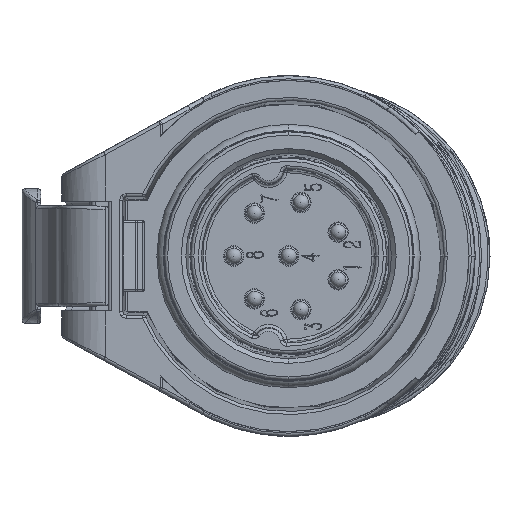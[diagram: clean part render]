
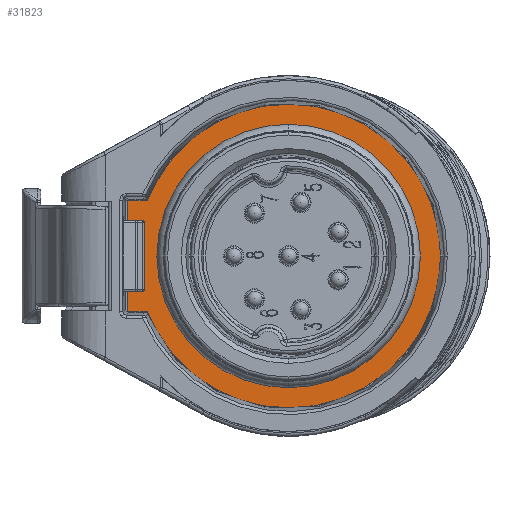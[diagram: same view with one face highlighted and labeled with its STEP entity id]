
A CAD part, left-side view. The second image highlights one B-rep face of the part: STEP entity #31823.
In plain terms, the highlighted planar face has unit normal (-1, 0, 0) as drawn and (0, 1, 0) by its records, which use the part's own axes.
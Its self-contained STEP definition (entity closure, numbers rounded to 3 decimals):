
#587 = EDGE_CURVE ( 'NONE', #84613, #59885, #59883, .T. ) ;
#3936 = DIRECTION ( 'NONE',  ( 0., 0., 1. ) ) ;
#3945 = VERTEX_POINT ( 'NONE', #59666 ) ;
#4397 = ORIENTED_EDGE ( 'NONE', *, *, #35210, .T. ) ;
#4482 = EDGE_LOOP ( 'NONE', ( #96091, #53062, #32875, #41013, #77374, #11120 ) ) ;
#6550 = DIRECTION ( 'NONE',  ( 0., 1., 0. ) ) ;
#8684 = CARTESIAN_POINT ( 'NONE',  ( 10.299, 2., 3.523 ) ) ;
#9753 = VECTOR ( 'NONE', #71012, 1000. ) ;
#9913 = VERTEX_POINT ( 'NONE', #98156 ) ;
#10788 = CIRCLE ( 'NONE', #98382, 9.683 ) ;
#11120 = ORIENTED_EDGE ( 'NONE', *, *, #587, .F. ) ;
#15989 = VECTOR ( 'NONE', #44357, 1000. ) ;
#18918 = VECTOR ( 'NONE', #60556, 1000. ) ;
#19224 = CARTESIAN_POINT ( 'NONE',  ( 10.299, 2., -3.523 ) ) ;
#19302 = ORIENTED_EDGE ( 'NONE', *, *, #79206, .T. ) ;
#20868 = CARTESIAN_POINT ( 'NONE',  ( 0., 2., -9.683 ) ) ;
#20879 = AXIS2_PLACEMENT_3D ( 'NONE', #41137, #6550, #67107 ) ;
#21631 = LINE ( 'NONE', #8684, #18918 ) ;
#23033 = CARTESIAN_POINT ( 'NONE',  ( 0., 2., 0. ) ) ;
#23226 = FACE_BOUND ( 'NONE', #71206, .T. ) ;
#30819 = DIRECTION ( 'NONE',  ( 0., -1., 0. ) ) ;
#31823 = ADVANCED_FACE ( 'NONE', ( #89326, #23226 ), #58432, .T. ) ;
#31858 = DIRECTION ( 'NONE',  ( 0., 0., 1. ) ) ;
#32875 = ORIENTED_EDGE ( 'NONE', *, *, #43803, .F. ) ;
#35210 = EDGE_CURVE ( 'NONE', #41559, #3945, #109313, .T. ) ;
#35602 = LINE ( 'NONE', #19224, #9753 ) ;
#39324 = DIRECTION ( 'NONE',  ( 0., -1., 0. ) ) ;
#40110 = CARTESIAN_POINT ( 'NONE',  ( 10.274, 2., -3.524 ) ) ;
#41013 = ORIENTED_EDGE ( 'NONE', *, *, #80563, .F. ) ;
#41137 = CARTESIAN_POINT ( 'NONE',  ( 0., 2., 0. ) ) ;
#41559 = VERTEX_POINT ( 'NONE', #81406 ) ;
#43803 = EDGE_CURVE ( 'NONE', #66193, #58350, #99607, .T. ) ;
#44357 = DIRECTION ( 'NONE',  ( 0., 0., 1. ) ) ;
#47418 = CARTESIAN_POINT ( 'NONE',  ( 9.01, 2., -3.545 ) ) ;
#53062 = ORIENTED_EDGE ( 'NONE', *, *, #84143, .F. ) ;
#55834 = DIRECTION ( 'NONE',  ( 0., -1., 0. ) ) ;
#58350 = VERTEX_POINT ( 'NONE', #93183 ) ;
#58432 = PLANE ( 'NONE',  #20879 ) ;
#59666 = CARTESIAN_POINT ( 'NONE',  ( 0., 2., 7.983 ) ) ;
#59883 = CIRCLE ( 'NONE', #96144, 9.683 ) ;
#59885 = VERTEX_POINT ( 'NONE', #20868 ) ;
#60556 = DIRECTION ( 'NONE',  ( -1., 0., 0.017 ) ) ;
#60932 = CARTESIAN_POINT ( 'NONE',  ( 10.274, 2., 3.55 ) ) ;
#61329 = CIRCLE ( 'NONE', #98259, 7.983 ) ;
#66193 = VERTEX_POINT ( 'NONE', #40110 ) ;
#66275 = CARTESIAN_POINT ( 'NONE',  ( 0., 2., 0. ) ) ;
#67020 = DIRECTION ( 'NONE',  ( 0., 0., 1. ) ) ;
#67107 = DIRECTION ( 'NONE',  ( 0., 0., 1. ) ) ;
#67865 = AXIS2_PLACEMENT_3D ( 'NONE', #90845, #39324, #99468 ) ;
#68116 = DIRECTION ( 'NONE',  ( 0., -1., 0. ) ) ;
#68749 = EDGE_CURVE ( 'NONE', #9913, #84613, #10788, .T. ) ;
#71012 = DIRECTION ( 'NONE',  ( 1., 0., 0.017 ) ) ;
#71206 = EDGE_LOOP ( 'NONE', ( #19302, #4397 ) ) ;
#74200 = EDGE_CURVE ( 'NONE', #59885, #78611, #98094, .T. ) ;
#74821 = CARTESIAN_POINT ( 'NONE',  ( 0., 2., 9.683 ) ) ;
#77374 = ORIENTED_EDGE ( 'NONE', *, *, #74200, .F. ) ;
#78611 = VERTEX_POINT ( 'NONE', #47418 ) ;
#79206 = EDGE_CURVE ( 'NONE', #3945, #41559, #61329, .T. ) ;
#80563 = EDGE_CURVE ( 'NONE', #78611, #66193, #35602, .T. ) ;
#81406 = CARTESIAN_POINT ( 'NONE',  ( 0., 2., -7.983 ) ) ;
#82357 = CARTESIAN_POINT ( 'NONE',  ( 0., 2., 0. ) ) ;
#83369 = DIRECTION ( 'NONE',  ( 0., -1., 0. ) ) ;
#84143 = EDGE_CURVE ( 'NONE', #58350, #9913, #21631, .T. ) ;
#84613 = VERTEX_POINT ( 'NONE', #74821 ) ;
#89326 = FACE_OUTER_BOUND ( 'NONE', #4482, .T. ) ;
#90845 = CARTESIAN_POINT ( 'NONE',  ( 0., 2., 0. ) ) ;
#91045 = DIRECTION ( 'NONE',  ( 0., 0., 1. ) ) ;
#93183 = CARTESIAN_POINT ( 'NONE',  ( 10.274, 2., 3.524 ) ) ;
#94039 = AXIS2_PLACEMENT_3D ( 'NONE', #107304, #55834, #3936 ) ;
#96091 = ORIENTED_EDGE ( 'NONE', *, *, #68749, .F. ) ;
#96144 = AXIS2_PLACEMENT_3D ( 'NONE', #66275, #68116, #67020 ) ;
#98094 = CIRCLE ( 'NONE', #67865, 9.683 ) ;
#98156 = CARTESIAN_POINT ( 'NONE',  ( 9.01, 2., 3.545 ) ) ;
#98259 = AXIS2_PLACEMENT_3D ( 'NONE', #23033, #83369, #31858 ) ;
#98382 = AXIS2_PLACEMENT_3D ( 'NONE', #82357, #30819, #91045 ) ;
#99468 = DIRECTION ( 'NONE',  ( 0., 0., 1. ) ) ;
#99607 = LINE ( 'NONE', #60932, #15989 ) ;
#107304 = CARTESIAN_POINT ( 'NONE',  ( 0., 2., 0. ) ) ;
#109313 = CIRCLE ( 'NONE', #94039, 7.983 ) ;
